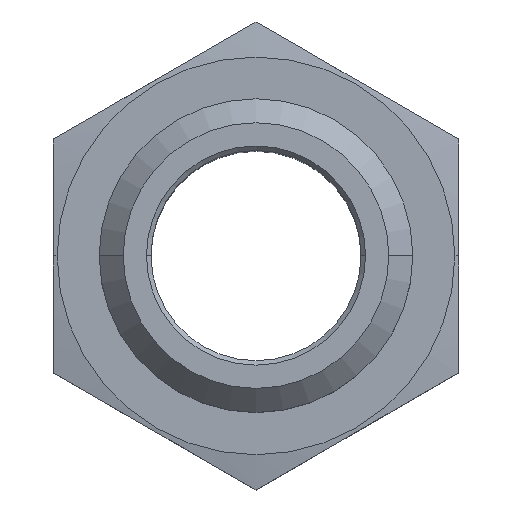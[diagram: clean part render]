
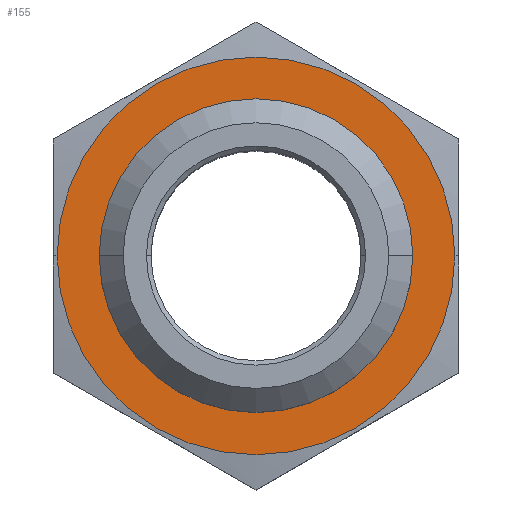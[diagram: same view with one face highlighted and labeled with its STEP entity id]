
A CAD part, top view. The second image highlights one B-rep face of the part: STEP entity #155.
In plain terms, the highlighted planar face has unit normal (0, 0, 1).
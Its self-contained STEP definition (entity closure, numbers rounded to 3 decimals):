
#28 = ORIENTED_EDGE ( 'NONE', *, *, #843, .T. ) ;
#31 = DIRECTION ( 'NONE',  ( 0., 0., -1. ) ) ;
#80 = CARTESIAN_POINT ( 'NONE',  ( 9.85, 0., -13. ) ) ;
#121 = CARTESIAN_POINT ( 'NONE',  ( 0., 0., -13. ) ) ;
#137 = CARTESIAN_POINT ( 'NONE',  ( 13.25, 0., -13. ) ) ;
#145 = FACE_OUTER_BOUND ( 'NONE', #657, .T. ) ;
#155 = ADVANCED_FACE ( 'NONE', ( #232, #145 ), #660, .F. ) ;
#161 = CIRCLE ( 'NONE', #179, 13.25 ) ;
#169 = VERTEX_POINT ( 'NONE', #137 ) ;
#179 = AXIS2_PLACEMENT_3D ( 'NONE', #121, #322, #434 ) ;
#191 = DIRECTION ( 'NONE',  ( 0., 0., 1. ) ) ;
#214 = EDGE_CURVE ( 'NONE', #1019, #869, #471, .T. ) ;
#232 = FACE_BOUND ( 'NONE', #263, .T. ) ;
#258 = DIRECTION ( 'NONE',  ( 0., 0., -1. ) ) ;
#263 = EDGE_LOOP ( 'NONE', ( #28, #592 ) ) ;
#283 = CARTESIAN_POINT ( 'NONE',  ( 0., 0., -13. ) ) ;
#287 = AXIS2_PLACEMENT_3D ( 'NONE', #759, #31, #1128 ) ;
#322 = DIRECTION ( 'NONE',  ( 0., 0., 1. ) ) ;
#384 = EDGE_CURVE ( 'NONE', #1292, #169, #161, .T. ) ;
#434 = DIRECTION ( 'NONE',  ( 1., 0., 0. ) ) ;
#471 = CIRCLE ( 'NONE', #807, 9.85 ) ;
#477 = CIRCLE ( 'NONE', #631, 13.25 ) ;
#499 = DIRECTION ( 'NONE',  ( -1., 0., 0. ) ) ;
#528 = EDGE_CURVE ( 'NONE', #169, #1292, #477, .T. ) ;
#577 = ORIENTED_EDGE ( 'NONE', *, *, #384, .T. ) ;
#592 = ORIENTED_EDGE ( 'NONE', *, *, #214, .T. ) ;
#631 = AXIS2_PLACEMENT_3D ( 'NONE', #283, #191, #694 ) ;
#638 = DIRECTION ( 'NONE',  ( -1., 0., 0. ) ) ;
#657 = EDGE_LOOP ( 'NONE', ( #577, #922 ) ) ;
#660 = PLANE ( 'NONE',  #1242 ) ;
#694 = DIRECTION ( 'NONE',  ( 1., 0., 0. ) ) ;
#759 = CARTESIAN_POINT ( 'NONE',  ( 0., 0., -13. ) ) ;
#760 = CARTESIAN_POINT ( 'NONE',  ( 0., 9.05, -13. ) ) ;
#807 = AXIS2_PLACEMENT_3D ( 'NONE', #1154, #258, #499 ) ;
#843 = EDGE_CURVE ( 'NONE', #869, #1019, #1002, .T. ) ;
#849 = CARTESIAN_POINT ( 'NONE',  ( -13.25, 0., -13. ) ) ;
#869 = VERTEX_POINT ( 'NONE', #1070 ) ;
#922 = ORIENTED_EDGE ( 'NONE', *, *, #528, .T. ) ;
#1002 = CIRCLE ( 'NONE', #287, 9.85 ) ;
#1019 = VERTEX_POINT ( 'NONE', #80 ) ;
#1054 = DIRECTION ( 'NONE',  ( 0., 0., -1. ) ) ;
#1070 = CARTESIAN_POINT ( 'NONE',  ( -9.85, 0., -13. ) ) ;
#1128 = DIRECTION ( 'NONE',  ( -1., 0., 0. ) ) ;
#1154 = CARTESIAN_POINT ( 'NONE',  ( 0., 0., -13. ) ) ;
#1242 = AXIS2_PLACEMENT_3D ( 'NONE', #760, #1054, #638 ) ;
#1292 = VERTEX_POINT ( 'NONE', #849 ) ;
